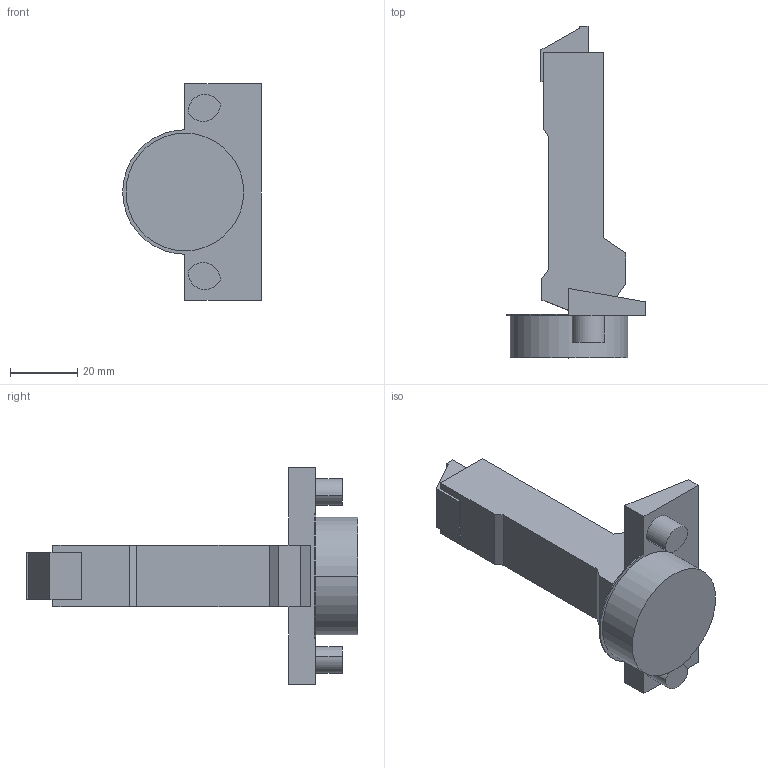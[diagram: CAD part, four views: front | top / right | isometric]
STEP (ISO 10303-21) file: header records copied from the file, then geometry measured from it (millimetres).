
FILE_DESCRIPTION (( 'STEP AP214' ), '1' );
FILE_NAME ('Scharnier T Impresso 95° HS_BB, K95.step', '2018-10-02T12:12:30', ( '' ), ( '' ), 'SwSTEP 2.0', 'SolidWorks 2017', '' );
FILE_SCHEMA (( 'AUTOMOTIVE_DESIGN' ));
Length unit declared in the file: millimetre
Products named in the file (1): Scharnier T Impresso 95° HS_BB, K95
Bounding box: 41.25 x 98.7 x 64.5 mm (x, y, z)
Volume: 47268.8 mm3; surface area: 12840 mm2
Topology: 1 solids, 1 shells, 52 faces, 132 edges, 88 vertices
Faces by surface type: plane 37, cylinder 15
Entity records: 1600 total; most frequent: CARTESIAN_POINT 273, DIRECTION 268, ORIENTED_EDGE 264, EDGE_CURVE 132, VECTOR 102, LINE 102, VERTEX_POINT 88, AXIS2_PLACEMENT_3D 83
